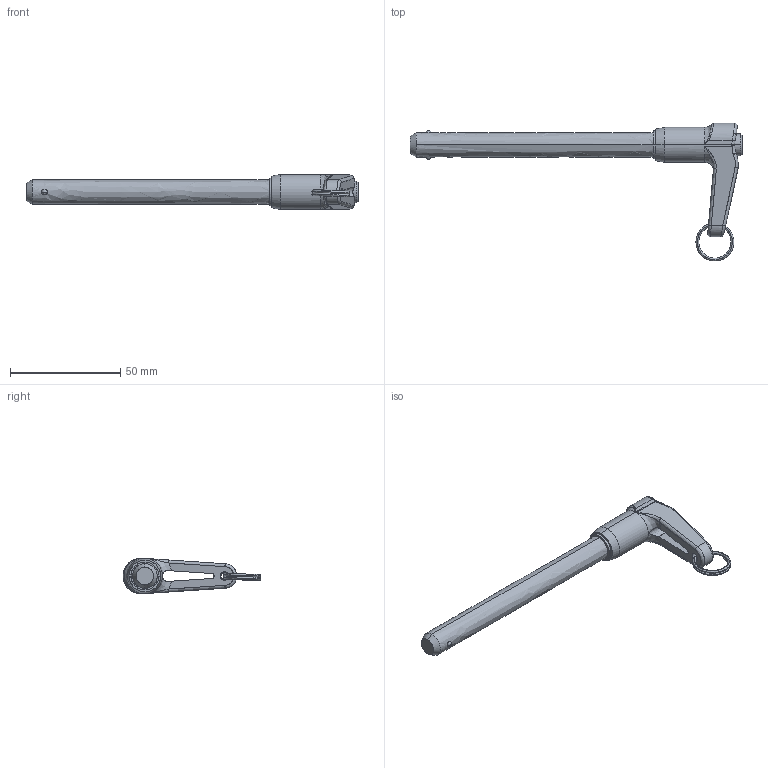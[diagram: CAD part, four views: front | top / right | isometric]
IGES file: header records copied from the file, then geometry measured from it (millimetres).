
Start section: SolidWorks IGES file using analytic representation for surfaces
Global section: file name: C:\Documents and Settings\IANO\My Documents\Wix and Auto CAD Work\CAD Models\Parametric Models\Wix Models\30000\33620_v2\33620_v2_20160606_IGES\33620.E040.igs; native system: SolidWorks 2009; preprocessor: SolidWorks 2009; author: IANO; date: 160615.130054; units: inch
Bounding box: 150.46 x 62.52 x 15.88 mm (x, y, z)
Surface area: 10619.2 mm2 (no closed solid volume)
Topology: 0 solids, 0 shells, 83 faces, 1221 edges, 1218 vertices
Faces by surface type: bspline 53, revolution 30
